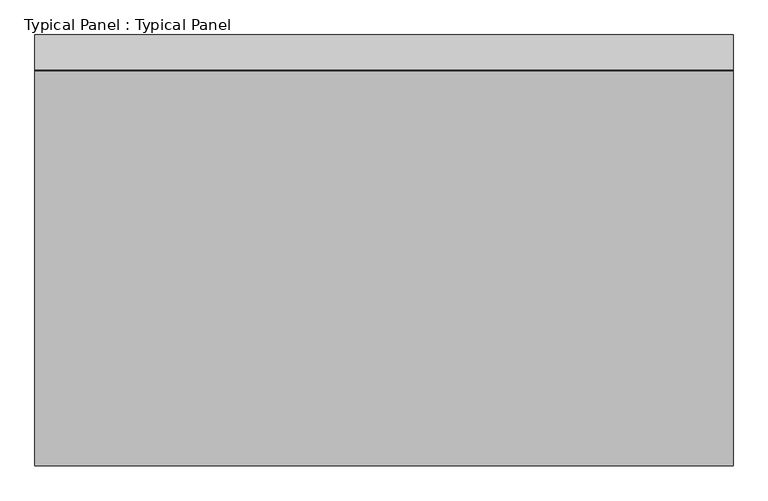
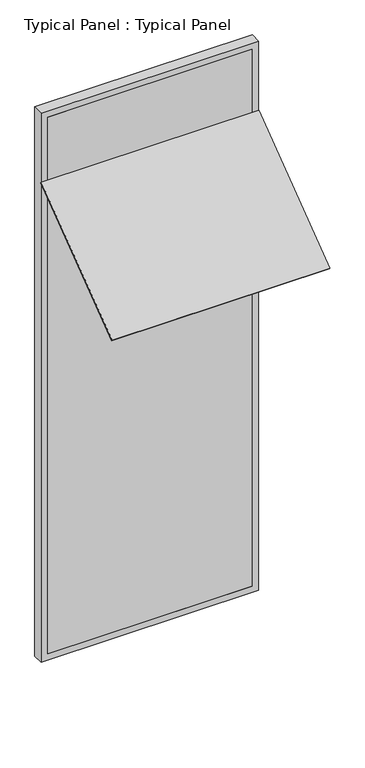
"""IFC4 building model written with IfcOpenShell, lengths in millimetres: plate geometry, Typical Panel : Typical Panel."""

from ifc_helpers import new_model, si_unit, frame, origin, place, context, project, spatial, polyline, outline, extrude, source, transform, mapped, element, save


def typical_panel_typical_panel_4d45919f(model_context):
    return source(origin(), model_context, "Body", "SweptSolid", [
        extrude(outline(polyline([(0.0, -1059.9999999), (0.0, 0.0), (1500.0, 0.0), (1500.0, -1059.9999999), (0.0, -1059.9999999)])), frame((750.0, -845.5354904, 2854.0897204), z_axis=(0.0, -0.6018150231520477, 0.7986355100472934), x_axis=(-1.0, 0.0, 0.0)), (0.0, 0.0, 1.0), 10.0),
        extrude(outline(polyline([(0.0, -750.0), (0.0, 750.0), (4000.0, 750.0), (4000.0, -750.0), (0.0, -750.0)]), holes=[polyline([(45.0, 705.0), (45.0, -705.0), (3955.0, -705.0), (3955.0, 705.0), (45.0, 705.0)])]), frame((0.0, -1.5797986, 0.0), z_axis=(0.0, 1.0, 0.0), x_axis=(0.0, 0.0, 1.0)), (0.0, 0.0, 1.0), 75.0),
        extrude(outline(polyline([(705.0, -1.5797986), (-705.0, -1.5797986), (-705.0, 13.4202014), (705.0, 13.4202014), (705.0, -1.5797986)])), frame((0.0, 0.0, 45.0), z_axis=(0.0, 0.0, 1.0), x_axis=(1.0, 0.0, 0.0)), (0.0, 0.0, 1.0), 3910.0),
    ])


if __name__ == "__main__":
    model = new_model("IFC4")
    model_context = context("Model", 3, world=origin())
    ifc_project = project(units=[si_unit("LENGTHUNIT", "METRE", prefix="MILLI")], contexts=[model_context])
    site = spatial("IfcSite", under=ifc_project)
    building = spatial("IfcBuilding", under=site)
    placement = place(None, origin())
    typical_panel_typical_panel_shape = typical_panel_typical_panel_4d45919f(model_context)
    element("IfcPlate", 1, ObjectType="Typical Panel : Typical Panel", at=placement, inside=building, context=model_context, shape_type="MappedRepresentation", body=[
        mapped(typical_panel_typical_panel_shape, transform((0.0, 0.0, 0.0), x_axis=(1.0, 0.0, 0.0), y_axis=(0.0, 1.0, 0.0), z_axis=(0.0, 0.0, 1.0))),
    ])
    save(model, "model.ifc")
